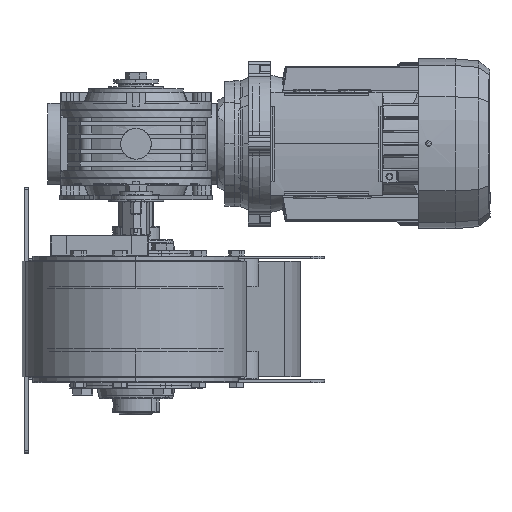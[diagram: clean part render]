
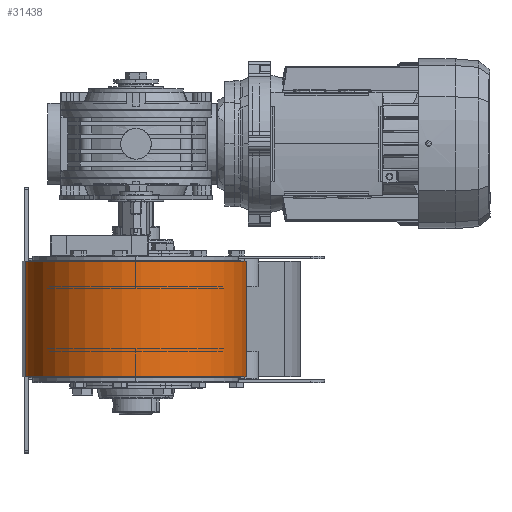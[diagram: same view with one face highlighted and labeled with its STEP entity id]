
A CAD part, left-side view. The second image highlights one B-rep face of the part: STEP entity #31438.
In plain terms, the highlighted free-form (B-spline) face has degree [1, 3] with [2, 28] control points.
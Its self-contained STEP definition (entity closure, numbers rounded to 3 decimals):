
#858 = CARTESIAN_POINT ( 'NONE',  ( -41.25, 2.536, 1605.871 ) ) ;
#1368 = CARTESIAN_POINT ( 'NONE',  ( -41.25, -76.8, 1600. ) ) ;
#2105 = CARTESIAN_POINT ( 'NONE',  ( 41.25, -34.613, 1668.322 ) ) ;
#2194 = CARTESIAN_POINT ( 'NONE',  ( 41.25, -154.558, 1583.211 ) ) ;
#2246 = EDGE_CURVE ( 'NONE', #69828, #70291, #87152, .T. ) ;
#6629 = CARTESIAN_POINT ( 'NONE',  ( -41.25, 2.622, 1604.508 ) ) ;
#7378 = CARTESIAN_POINT ( 'NONE',  ( -41.25, -76.65, 1680.297 ) ) ;
#9309 = CARTESIAN_POINT ( 'NONE',  ( -41.25, -10.775, 1645.699 ) ) ;
#9876 = VECTOR ( 'NONE', #56995, 1000. ) ;
#9961 = CARTESIAN_POINT ( 'NONE',  ( 41.25, 1.302, 1615.352 ) ) ;
#10594 = CARTESIAN_POINT ( 'NONE',  ( 41.25, 2.358, 1607.913 ) ) ;
#11223 = CARTESIAN_POINT ( 'NONE',  ( 41.25, -108.831, 1673.632 ) ) ;
#11860 = CARTESIAN_POINT ( 'NONE',  ( -41.25, 1.954, 1611.305 ) ) ;
#13625 = ORIENTED_EDGE ( 'NONE', *, *, #97140, .T. ) ;
#19642 = FACE_OUTER_BOUND ( 'NONE', #25681, .T. ) ;
#20268 = CARTESIAN_POINT ( 'NONE',  ( 41.25, -98.312, 1677.362 ) ) ;
#20889 = CARTESIAN_POINT ( 'NONE',  ( 41.25, -135.647, 1654.633 ) ) ;
#21523 = CARTESIAN_POINT ( 'NONE',  ( 41.25, -127.503, 1662.265 ) ) ;
#21998 = B_SPLINE_SURFACE_WITH_KNOTS ( 'NONE', 1, 3, ( 
 ( #26772, #66135, #27418, #58353, #48079, #105584, #77729, #117190, #28688, #7378, #76446, #97804, #115912, #48726, #9309, #88096, #39023, #120366, #99070, #11860, #89357, #69929, #99710, #858, #22165, #70550, #100979, #71820 ),
 ( #81555, #90628, #40911, #110017, #49350, #20889, #21523, #11223, #20268, #51242, #88722, #32481, #2105, #60892, #118470, #29952, #41548, #60252, #9961, #59633, #109380, #10594, #42177, #39656, #22806, #80918, #100341, #111313 ) ),
 .UNSPECIFIED., .F., .F., .F.,
 ( 2, 2 ),
 ( 4, 2, 2, 2, 2, 2, 2, 2, 2, 2, 2, 2, 2, 4 ),
 ( 0., 1. ),
 ( 0.904, 0.916, 0.928, 0.94, 0.952, 0.964, 0.976, 0.988, 0.994, 0.997, 0.999, 0.999, 1., 1. ),
 .UNSPECIFIED. ) ;
#22165 = CARTESIAN_POINT ( 'NONE',  ( -41.25, 2.585, 1605.169 ) ) ;
#22806 = CARTESIAN_POINT ( 'NONE',  ( 41.25, 2.585, 1605.169 ) ) ;
#23609 = DIRECTION ( 'NONE',  ( 0., -0.977, -0.211 ) ) ;
#24437 = DIRECTION ( 'NONE',  ( -1., 0., 0. ) ) ;
#25681 = EDGE_LOOP ( 'NONE', ( #114602, #13625, #105476, #108189, #122815, #119779 ) ) ;
#26772 = CARTESIAN_POINT ( 'NONE',  ( -41.25, -154.558, 1583.211 ) ) ;
#27418 = CARTESIAN_POINT ( 'NONE',  ( -41.25, -156.938, 1605.056 ) ) ;
#28154 = EDGE_CURVE ( 'NONE', #123398, #59734, #58616, .T. ) ;
#28688 = CARTESIAN_POINT ( 'NONE',  ( -41.25, -98.312, 1677.362 ) ) ;
#29952 = CARTESIAN_POINT ( 'NONE',  ( 41.25, -3.366, 1631.073 ) ) ;
#30506 = VERTEX_POINT ( 'NONE', #2194 ) ;
#31438 = ADVANCED_FACE ( 'NONE', ( #19642 ), #21998, .T. ) ;
#32481 = CARTESIAN_POINT ( 'NONE',  ( 41.25, -44.494, 1673.512 ) ) ;
#34516 = VECTOR ( 'NONE', #39347, 1000. ) ;
#37639 = LINE ( 'NONE', #6629, #9876 ) ;
#37914 = CARTESIAN_POINT ( 'NONE',  ( -41.25, 2.626, 1604.436 ) ) ;
#39023 = CARTESIAN_POINT ( 'NONE',  ( -41.25, -1.401, 1625.944 ) ) ;
#39347 = DIRECTION ( 'NONE',  ( 0., 0.057, -0.998 ) ) ;
#39656 = CARTESIAN_POINT ( 'NONE',  ( 41.25, 2.536, 1605.871 ) ) ;
#40911 = CARTESIAN_POINT ( 'NONE',  ( 41.25, -156.938, 1605.056 ) ) ;
#41548 = CARTESIAN_POINT ( 'NONE',  ( 41.25, -1.401, 1625.944 ) ) ;
#42177 = CARTESIAN_POINT ( 'NONE',  ( 41.25, 2.423, 1607.233 ) ) ;
#48079 = CARTESIAN_POINT ( 'NONE',  ( -41.25, -148.201, 1636.737 ) ) ;
#48342 = AXIS2_PLACEMENT_3D ( 'NONE', #1368, #24437, #112307 ) ;
#48726 = CARTESIAN_POINT ( 'NONE',  ( -41.25, -17.749, 1654.412 ) ) ;
#49350 = CARTESIAN_POINT ( 'NONE',  ( 41.25, -148.201, 1636.737 ) ) ;
#50485 = AXIS2_PLACEMENT_3D ( 'NONE', #121816, #55199, #23609 ) ;
#51242 = CARTESIAN_POINT ( 'NONE',  ( 41.25, -76.65, 1680.297 ) ) ;
#55199 = DIRECTION ( 'NONE',  ( -1., 0., 0. ) ) ;
#56995 = DIRECTION ( 'NONE',  ( 0., 0.057, -0.998 ) ) ;
#57140 = DIRECTION ( 'NONE',  ( -1., 0., 0. ) ) ;
#58353 = CARTESIAN_POINT ( 'NONE',  ( -41.25, -152.605, 1626.482 ) ) ;
#58616 = CIRCLE ( 'NONE', #48342, 79.55 ) ;
#59326 = CARTESIAN_POINT ( 'NONE',  ( 41.25, 2.622, 1604.508 ) ) ;
#59633 = CARTESIAN_POINT ( 'NONE',  ( 41.25, 1.954, 1611.305 ) ) ;
#59734 = VERTEX_POINT ( 'NONE', #78832 ) ;
#60252 = CARTESIAN_POINT ( 'NONE',  ( 41.25, 0.729, 1618.027 ) ) ;
#60892 = CARTESIAN_POINT ( 'NONE',  ( 41.25, -17.749, 1654.412 ) ) ;
#66135 = CARTESIAN_POINT ( 'NONE',  ( -41.25, -156.865, 1593.897 ) ) ;
#68592 = VECTOR ( 'NONE', #57140, 1000. ) ;
#69828 = VERTEX_POINT ( 'NONE', #78069 ) ;
#69929 = CARTESIAN_POINT ( 'NONE',  ( -41.25, 2.358, 1607.913 ) ) ;
#70291 = VERTEX_POINT ( 'NONE', #107671 ) ;
#70550 = CARTESIAN_POINT ( 'NONE',  ( -41.25, 2.626, 1604.439 ) ) ;
#71048 = CIRCLE ( 'NONE', #50485, 79.55 ) ;
#71820 = CARTESIAN_POINT ( 'NONE',  ( -41.25, 2.634, 1604.308 ) ) ;
#75847 = LINE ( 'NONE', #83181, #68592 ) ;
#76446 = CARTESIAN_POINT ( 'NONE',  ( -41.25, -65.517, 1679.501 ) ) ;
#77178 = EDGE_CURVE ( 'NONE', #123398, #30506, #92022, .T. ) ;
#77729 = CARTESIAN_POINT ( 'NONE',  ( -41.25, -127.503, 1662.265 ) ) ;
#78069 = CARTESIAN_POINT ( 'NONE',  ( 41.25, 2.622, 1604.508 ) ) ;
#78832 = CARTESIAN_POINT ( 'NONE',  ( -41.25, 2.622, 1604.508 ) ) ;
#79858 = EDGE_CURVE ( 'NONE', #30506, #69828, #71048, .T. ) ;
#80918 = CARTESIAN_POINT ( 'NONE',  ( 41.25, 2.626, 1604.439 ) ) ;
#81555 = CARTESIAN_POINT ( 'NONE',  ( 41.25, -154.558, 1583.211 ) ) ;
#83181 = CARTESIAN_POINT ( 'NONE',  ( 0., 2.626, 1604.436 ) ) ;
#87152 = LINE ( 'NONE', #59326, #34516 ) ;
#87919 = EDGE_CURVE ( 'NONE', #59734, #118998, #37639, .T. ) ;
#88096 = CARTESIAN_POINT ( 'NONE',  ( -41.25, -3.366, 1631.073 ) ) ;
#88722 = CARTESIAN_POINT ( 'NONE',  ( 41.25, -65.517, 1679.501 ) ) ;
#89357 = CARTESIAN_POINT ( 'NONE',  ( -41.25, 2.137, 1609.951 ) ) ;
#90628 = CARTESIAN_POINT ( 'NONE',  ( 41.25, -156.865, 1593.897 ) ) ;
#91380 = DIRECTION ( 'NONE',  ( 1., 0., 0. ) ) ;
#92022 = LINE ( 'NONE', #112058, #99836 ) ;
#97140 = EDGE_CURVE ( 'NONE', #70291, #118998, #75847, .T. ) ;
#97804 = CARTESIAN_POINT ( 'NONE',  ( -41.25, -44.494, 1673.512 ) ) ;
#99070 = CARTESIAN_POINT ( 'NONE',  ( -41.25, 1.302, 1615.352 ) ) ;
#99710 = CARTESIAN_POINT ( 'NONE',  ( -41.25, 2.423, 1607.233 ) ) ;
#99836 = VECTOR ( 'NONE', #91380, 1000. ) ;
#100341 = CARTESIAN_POINT ( 'NONE',  ( 41.25, 2.63, 1604.376 ) ) ;
#100979 = CARTESIAN_POINT ( 'NONE',  ( -41.25, 2.63, 1604.376 ) ) ;
#105476 = ORIENTED_EDGE ( 'NONE', *, *, #87919, .F. ) ;
#105584 = CARTESIAN_POINT ( 'NONE',  ( -41.25, -135.647, 1654.633 ) ) ;
#107671 = CARTESIAN_POINT ( 'NONE',  ( 41.25, 2.626, 1604.436 ) ) ;
#108189 = ORIENTED_EDGE ( 'NONE', *, *, #28154, .F. ) ;
#109380 = CARTESIAN_POINT ( 'NONE',  ( 41.25, 2.137, 1609.951 ) ) ;
#110017 = CARTESIAN_POINT ( 'NONE',  ( 41.25, -152.605, 1626.482 ) ) ;
#111313 = CARTESIAN_POINT ( 'NONE',  ( 41.25, 2.634, 1604.308 ) ) ;
#112058 = CARTESIAN_POINT ( 'NONE',  ( 41.25, -154.558, 1583.211 ) ) ;
#112307 = DIRECTION ( 'NONE',  ( 0., -0.977, -0.211 ) ) ;
#114602 = ORIENTED_EDGE ( 'NONE', *, *, #2246, .T. ) ;
#115912 = CARTESIAN_POINT ( 'NONE',  ( -41.25, -34.613, 1668.322 ) ) ;
#117190 = CARTESIAN_POINT ( 'NONE',  ( -41.25, -108.831, 1673.632 ) ) ;
#118470 = CARTESIAN_POINT ( 'NONE',  ( 41.25, -10.775, 1645.699 ) ) ;
#118998 = VERTEX_POINT ( 'NONE', #37914 ) ;
#119779 = ORIENTED_EDGE ( 'NONE', *, *, #79858, .T. ) ;
#120366 = CARTESIAN_POINT ( 'NONE',  ( -41.25, 0.729, 1618.027 ) ) ;
#121816 = CARTESIAN_POINT ( 'NONE',  ( 41.25, -76.8, 1600. ) ) ;
#122815 = ORIENTED_EDGE ( 'NONE', *, *, #77178, .T. ) ;
#123398 = VERTEX_POINT ( 'NONE', #124402 ) ;
#124402 = CARTESIAN_POINT ( 'NONE',  ( -41.25, -154.558, 1583.211 ) ) ;
